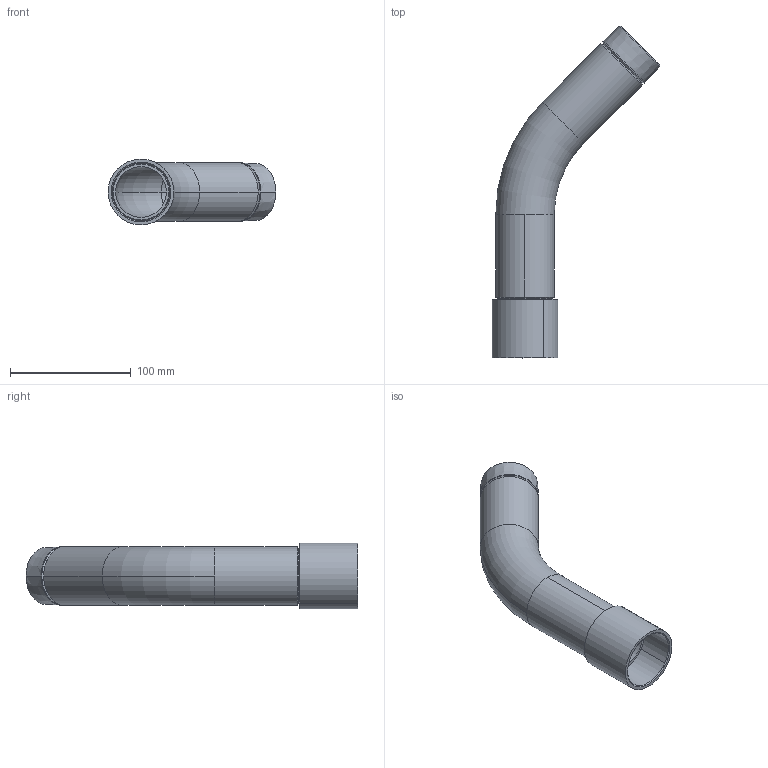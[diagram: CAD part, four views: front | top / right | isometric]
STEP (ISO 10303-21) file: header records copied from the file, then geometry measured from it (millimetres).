
FILE_DESCRIPTION (( 'STEP AP203' ), '1' );
FILE_NAME ('11-0225-08_outokumpu.step', '2015-08-12T08:00:59', ( '' ), ( '' ), 'SwSTEP 2.0', 'SolidWorks 2008', '' );
FILE_SCHEMA (( 'CONFIG_CONTROL_DESIGN' ));
Length unit declared in the file: millimetre
Products named in the file (3): 11-0225-08_outokumpu; bend-11-0225-28_outokumpu_bend-11-0225-28_outokumpu; nut-11-0225-08_outokumpu_nut-11-0225-08_outokumpu
Assembly tree (2 placements, depth 2):
  11-0225-08_outokumpu
    nut-11-0225-08_outokumpu_nut-11-0225-08_outokumpu
    bend-11-0225-28_outokumpu_bend-11-0225-28_outokumpu
Bounding box: 138.72 x 274.55 x 54.35 mm (x, y, z)
Volume: 143573.2 mm3; surface area: 92670.9 mm2
Topology: 2 solids, 2 shells, 50 faces, 110 edges, 64 vertices
Faces by surface type: cone 18, cylinder 16, torus 12, plane 4
Entity records: 1699 total; most frequent: DIRECTION 296, CARTESIAN_POINT 229, ORIENTED_EDGE 220, AXIS2_PLACEMENT_3D 131, EDGE_CURVE 110, CIRCLE 76, VERTEX_POINT 64, EDGE_LOOP 54
